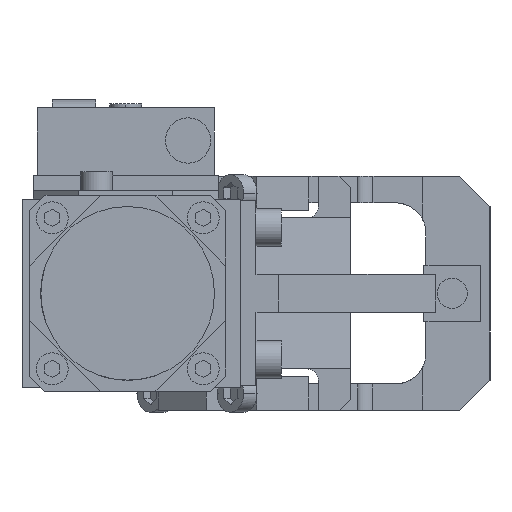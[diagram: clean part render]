
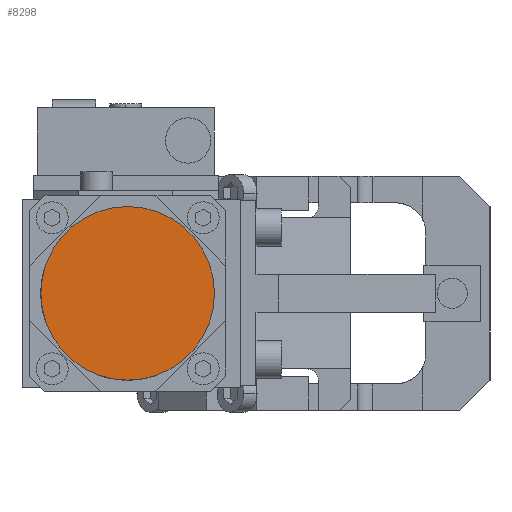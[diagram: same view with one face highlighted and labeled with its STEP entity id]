
A CAD part, front view. The second image highlights one B-rep face of the part: STEP entity #8298.
In plain terms, the highlighted planar face has unit normal (0, -1, 0) as drawn and (0, 1, 0) by its records, which use the part's own axes.
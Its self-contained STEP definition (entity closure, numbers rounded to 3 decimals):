
#22 = DIRECTION ( 'NONE',  ( 0., 0., 1. ) ) ;
#165 = EDGE_CURVE ( 'NONE', #916, #281, #7794, .T. ) ;
#281 = VERTEX_POINT ( 'NONE', #1991 ) ;
#916 = VERTEX_POINT ( 'NONE', #3156 ) ;
#1991 = CARTESIAN_POINT ( 'NONE',  ( 0., 113., 23. ) ) ;
#2063 = DIRECTION ( 'NONE',  ( 0., 1., 0. ) ) ;
#3156 = CARTESIAN_POINT ( 'NONE',  ( 0., 113., -23. ) ) ;
#3545 = DIRECTION ( 'NONE',  ( 0., 0., 1. ) ) ;
#3689 = DIRECTION ( 'NONE',  ( 0., 0., 1. ) ) ;
#3709 = DIRECTION ( 'NONE',  ( 0., 1., 0. ) ) ;
#3727 = CARTESIAN_POINT ( 'NONE',  ( 0., 113., 0. ) ) ;
#3926 = DIRECTION ( 'NONE',  ( 0., 1., 0. ) ) ;
#4038 = CARTESIAN_POINT ( 'NONE',  ( 0., 113., 0. ) ) ;
#4131 = CARTESIAN_POINT ( 'NONE',  ( 0., 113., 0. ) ) ;
#4827 = EDGE_CURVE ( 'NONE', #281, #916, #5419, .T. ) ;
#5419 = CIRCLE ( 'NONE', #7678, 23. ) ;
#6250 = PLANE ( 'NONE',  #8916 ) ;
#6466 = EDGE_LOOP ( 'NONE', ( #12431, #13795 ) ) ;
#7678 = AXIS2_PLACEMENT_3D ( 'NONE', #4038, #3926, #3545 ) ;
#7794 = CIRCLE ( 'NONE', #8859, 23. ) ;
#8298 = ADVANCED_FACE ( 'NONE', ( #11546 ), #6250, .T. ) ;
#8859 = AXIS2_PLACEMENT_3D ( 'NONE', #3727, #3709, #3689 ) ;
#8916 = AXIS2_PLACEMENT_3D ( 'NONE', #4131, #2063, #22 ) ;
#11546 = FACE_OUTER_BOUND ( 'NONE', #6466, .T. ) ;
#12431 = ORIENTED_EDGE ( 'NONE', *, *, #165, .T. ) ;
#13795 = ORIENTED_EDGE ( 'NONE', *, *, #4827, .T. ) ;
